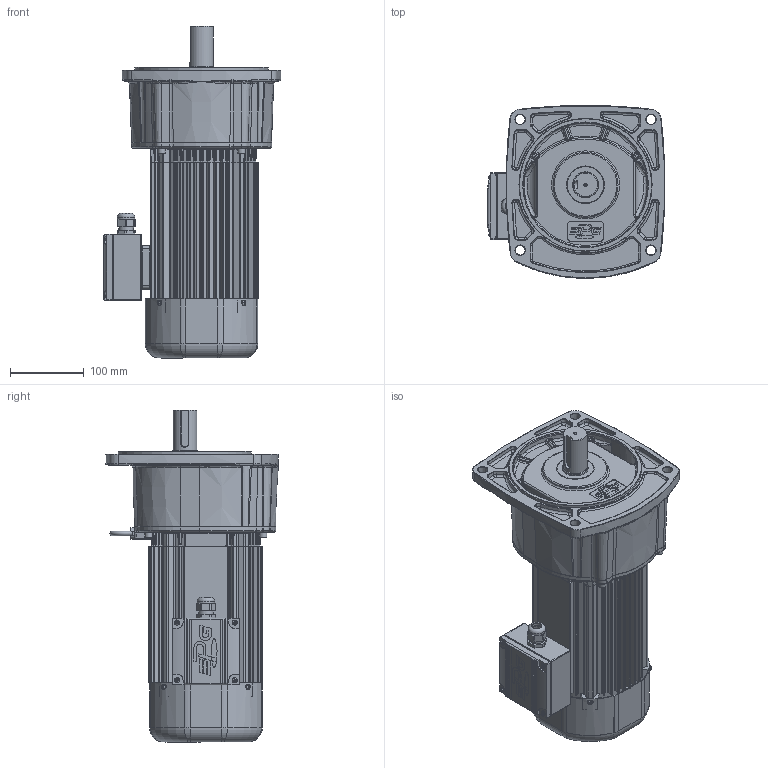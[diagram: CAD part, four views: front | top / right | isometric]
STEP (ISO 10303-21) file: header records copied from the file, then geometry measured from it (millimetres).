
FILE_DESCRIPTION(/* description */ (''),/* implementation_level */ '2;1');
FILE_NAME(/* name */ 'Z:\동력 3D 파일\PAF32_0.75kW_Brake_3D.stp',/* time_stamp */ '2021-11-08T15:40:45+09:00',/* author */ ('jaebok'),/* organization */ (''),/* preprocessor_version */ 'ST-DEVELOPER v18.1',/* originating_system */ 'Autodesk Inventor 2022',/* authorisation */ '');
FILE_SCHEMA (('AUTOMOTIVE_DESIGN { 1 0 10303 214 3 1 1 }'));
Products named in the file (1): 부품16
Bounding box: 240.18 x 233.68 x 449 mm (x, y, z)
Volume: 3062101.5 mm3; surface area: 838644.4 mm2
Topology: 2 solids, 29 shells, 3953 faces, 9988 edges, 5896 vertices
Faces by surface type: plane 1157, bspline 1083, cylinder 1039, torus 347, cone 211, sphere 116
Full cylindrical faces by diameter (mm): 2 x1, 3.25 x1, 3.6 x4, 4 x18, 4.917 x4, 5 x21, 6 x5, 6.647 x1, 6.8 x4, 7 x13, 8 x5, 9.5 x4, 10 x5, 12.5 x1, 15 x1, 20 x2, 20.6 x1, 21 x2, 22 x1, 23.6 x1, 25 x1, 28 x1, 30 x1, 32 x2, 34.6 x1, 35 x5, 37 x1, 42 x2, 50 x2, 52 x2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
Entity records: 162159 total; most frequent: CARTESIAN_POINT 71371, ORIENTED_EDGE 19450, DIRECTION 16902, EDGE_CURVE 9725, AXIS2_PLACEMENT_3D 6808, VERTEX_POINT 5896, EDGE_LOOP 4159, FACE_OUTER_BOUND 3953
